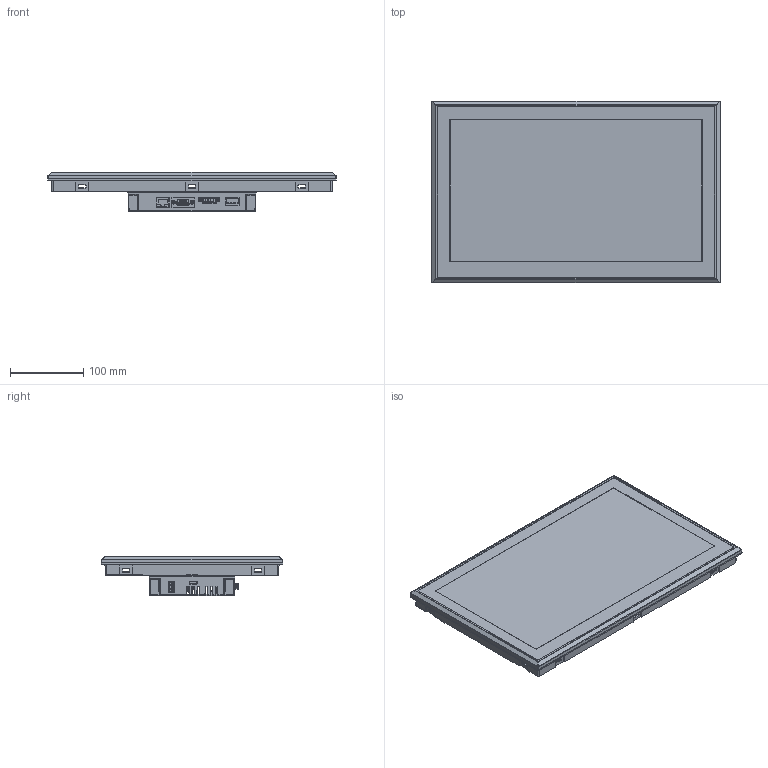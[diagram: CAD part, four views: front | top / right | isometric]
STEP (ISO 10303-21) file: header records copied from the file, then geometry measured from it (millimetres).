
FILE_DESCRIPTION (( 'STEP AP203' ), '1' );
FILE_NAME ('CM-eXT2-15W-DE.STEP', '2025-06-27T07:16:19', ( '' ), ( '' ), 'SwSTEP 2.0', 'SolidWorks 2024', '' );
FILE_SCHEMA (( 'CONFIG_CONTROL_DESIGN' ));
Products named in the file (1): CM-eXT2-15W-DE
Bounding box: 394.2 x 248.5 x 53.6 mm (x, y, z)
Volume: 590881.8 mm3; surface area: 524590.6 mm2
Topology: 1 solids, 10 shells, 5648 faces, 15734 edges, 10149 vertices
Faces by surface type: plane 3412, cylinder 1462, bspline 422, cone 204, sphere 96, torus 52
Entity records: 200136 total; most frequent: CARTESIAN_POINT 58586, ORIENTED_EDGE 31388, DIRECTION 27209, EDGE_CURVE 15694, LINE 10969, VECTOR 10969, VERTEX_POINT 10131, AXIS2_PLACEMENT_3D 8120
